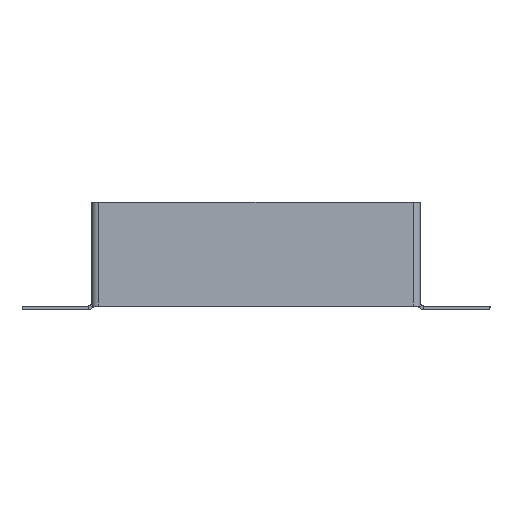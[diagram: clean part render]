
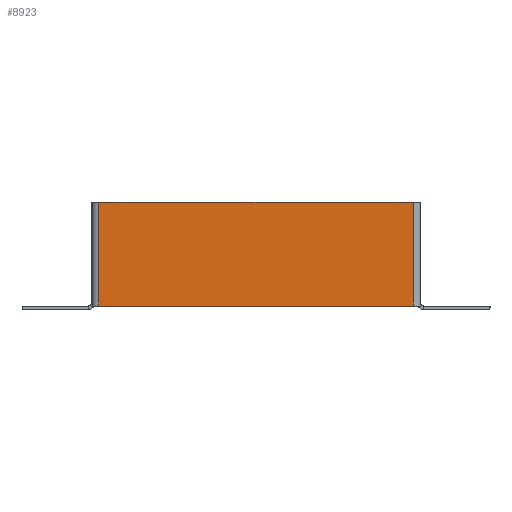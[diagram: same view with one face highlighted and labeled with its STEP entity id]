
A CAD part, front view. The second image highlights one B-rep face of the part: STEP entity #8923.
In plain terms, the highlighted planar face has unit normal (0, -1, 0).
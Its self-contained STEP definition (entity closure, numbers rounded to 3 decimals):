
#97 = VECTOR ( 'NONE', #3585, 1000. ) ;
#216 = AXIS2_PLACEMENT_3D ( 'NONE', #1038, #6580, #9766 ) ;
#464 = VERTEX_POINT ( 'NONE', #3935 ) ;
#476 = VECTOR ( 'NONE', #1700, 1000. ) ;
#1038 = CARTESIAN_POINT ( 'NONE',  ( 0., -2., 0. ) ) ;
#1141 = ORIENTED_EDGE ( 'NONE', *, *, #4347, .F. ) ;
#1336 = FACE_OUTER_BOUND ( 'NONE', #3413, .T. ) ;
#1451 = EDGE_CURVE ( 'NONE', #464, #7926, #6505, .T. ) ;
#1522 = VECTOR ( 'NONE', #5244, 1000. ) ;
#1700 = DIRECTION ( 'NONE',  ( 0., 0., 1. ) ) ;
#2259 = LINE ( 'NONE', #9891, #97 ) ;
#2870 = CARTESIAN_POINT ( 'NONE',  ( -88., -2., 0. ) ) ;
#2995 = VERTEX_POINT ( 'NONE', #7632 ) ;
#3049 = ORIENTED_EDGE ( 'NONE', *, *, #7885, .F. ) ;
#3413 = EDGE_LOOP ( 'NONE', ( #8093, #1141, #4375, #3049 ) ) ;
#3585 = DIRECTION ( 'NONE',  ( 1., 0., 0. ) ) ;
#3935 = CARTESIAN_POINT ( 'NONE',  ( 88., -2., -58. ) ) ;
#4200 = VERTEX_POINT ( 'NONE', #9761 ) ;
#4347 = EDGE_CURVE ( 'NONE', #464, #2995, #8557, .T. ) ;
#4375 = ORIENTED_EDGE ( 'NONE', *, *, #1451, .T. ) ;
#5244 = DIRECTION ( 'NONE',  ( -1., 0., 0. ) ) ;
#6101 = CARTESIAN_POINT ( 'NONE',  ( 88., -2., 0. ) ) ;
#6505 = LINE ( 'NONE', #8087, #476 ) ;
#6580 = DIRECTION ( 'NONE',  ( 0., 1., 0. ) ) ;
#7632 = CARTESIAN_POINT ( 'NONE',  ( -88., -2., -58. ) ) ;
#7885 = EDGE_CURVE ( 'NONE', #4200, #7926, #2259, .T. ) ;
#7926 = VERTEX_POINT ( 'NONE', #6101 ) ;
#7996 = EDGE_CURVE ( 'NONE', #4200, #2995, #8783, .T. ) ;
#8087 = CARTESIAN_POINT ( 'NONE',  ( 88., -2., -58. ) ) ;
#8093 = ORIENTED_EDGE ( 'NONE', *, *, #7996, .T. ) ;
#8557 = LINE ( 'NONE', #9284, #1522 ) ;
#8783 = LINE ( 'NONE', #2870, #9020 ) ;
#8923 = ADVANCED_FACE ( 'NONE', ( #1336 ), #9005, .F. ) ;
#9005 = PLANE ( 'NONE',  #216 ) ;
#9020 = VECTOR ( 'NONE', #9249, 1000. ) ;
#9249 = DIRECTION ( 'NONE',  ( 0., 0., -1. ) ) ;
#9284 = CARTESIAN_POINT ( 'NONE',  ( -90., -2., -58. ) ) ;
#9761 = CARTESIAN_POINT ( 'NONE',  ( -88., -2., 0. ) ) ;
#9766 = DIRECTION ( 'NONE',  ( 0., 0., 1. ) ) ;
#9891 = CARTESIAN_POINT ( 'NONE',  ( -90., -2., 0. ) ) ;
